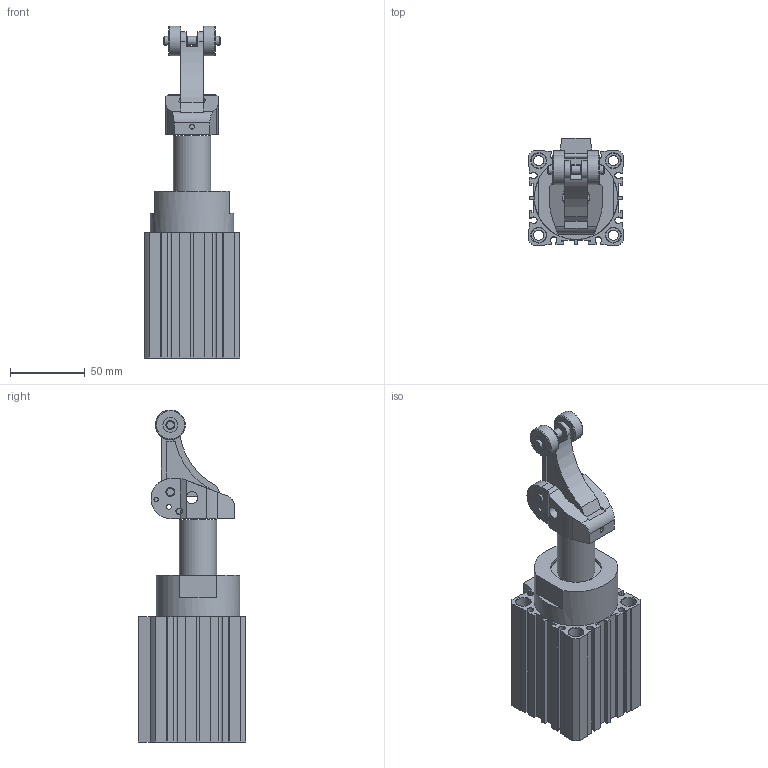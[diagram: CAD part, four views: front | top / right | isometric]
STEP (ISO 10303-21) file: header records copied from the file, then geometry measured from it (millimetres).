
FILE_DESCRIPTION((''),'2;1');
FILE_NAME('I:\3D電子目錄\氣缸\STD\STD50\STD50x30.stp','2007-09-20T14:39:24',('Administrator'),(''),'Autodesk Inventor 11','Autodesk Inventor 11','');
FILE_SCHEMA(('AUTOMOTIVE_DESIGN { 1 0 10303 214 1 1 1 1 }'));
Length unit declared in the file: millimetre
Products named in the file (1): STD50
Bounding box: 64 x 72 x 222.7 mm (x, y, z)
Volume: 429554.8 mm3; surface area: 77466.5 mm2
Topology: 5 solids, 5 shells, 290 faces, 769 edges, 499 vertices
Faces by surface type: plane 171, cylinder 77, bspline 21, cone 20, torus 1
Full cylindrical faces by diameter (mm): 3 x1, 3.1 x4, 3.8 x1, 4 x1, 6 x6, 6.8 x4, 8 x2, 10 x10, 20 x2, 25 x2, 25.2 x1, 29 x1, 34 x1, 35.7 x1, 42 x2, 44.5 x1, 56 x1
Entity records: 9583 total; most frequent: CARTESIAN_POINT 2547, DIRECTION 1432, ORIENTED_EDGE 1390, EDGE_CURVE 695, AXIS2_PLACEMENT_3D 498, VERTEX_POINT 488, VECTOR 436, LINE 436
